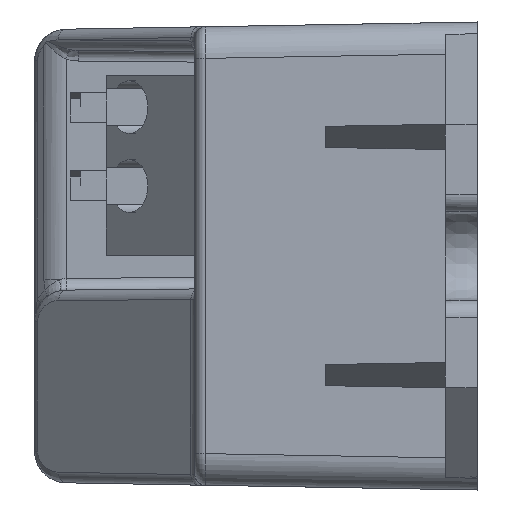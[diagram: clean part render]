
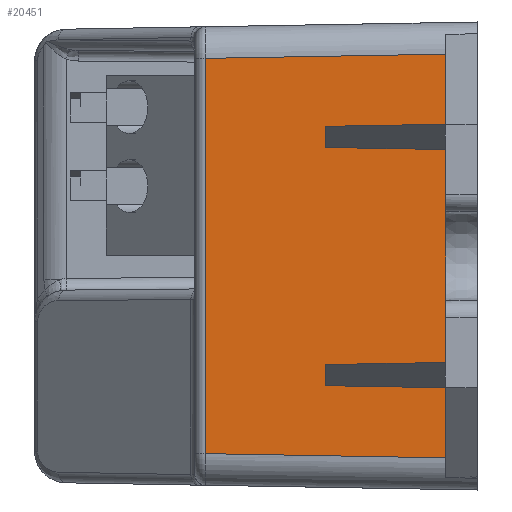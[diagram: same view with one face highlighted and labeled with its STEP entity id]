
A CAD part, left-side view. The second image highlights one B-rep face of the part: STEP entity #20451.
In plain terms, the highlighted planar face has unit normal (-1, 0.018, 0).
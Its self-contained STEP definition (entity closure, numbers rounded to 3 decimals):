
#4564=CARTESIAN_POINT('',(130.84,-26.403,
-26.689));
#6847=DIRECTION('',(0.017,1.,-0.017));
#6848=VECTOR('',#6847,6.711);
#6849=CARTESIAN_POINT('',(130.722,-33.112,
-7.822));
#6850=LINE('',#6849,#6848);
#6851=DIRECTION('',(0.017,1.,-0.017));
#6852=VECTOR('',#6851,4.701);
#6853=CARTESIAN_POINT('',(130.64,-37.812,
-7.74));
#6854=LINE('',#6853,#6852);
#6855=DIRECTION('',(0.,0.,1.));
#6856=VECTOR('',#6855,2.007);
#6857=CARTESIAN_POINT('',(130.64,-37.812,
-9.747));
#6858=LINE('',#6857,#6856);
#6859=DIRECTION('',(0.,0.,1.));
#6860=VECTOR('',#6859,15.135);
#6861=CARTESIAN_POINT('',(130.614,-39.312,
-24.882));
#6862=LINE('',#6861,#6860);
#6863=DIRECTION('',(0.,0.,1.));
#6864=VECTOR('',#6863,2.007);
#6865=CARTESIAN_POINT('',(130.64,-37.812,
-26.888));
#6866=LINE('',#6865,#6864);
#6867=DIRECTION('',(-0.017,-1.,-0.017));
#6868=VECTOR('',#6867,4.701);
#6869=CARTESIAN_POINT('',(130.722,-33.112,
-26.806));
#6870=LINE('',#6869,#6868);
#6871=DIRECTION('',(-0.017,-1.,-0.017));
#6872=VECTOR('',#6871,6.711);
#6873=CARTESIAN_POINT('',(130.84,-26.403,
-26.689));
#6874=LINE('',#6873,#6872);
#6875=DIRECTION('',(-0.017,-1.,0.017));
#6876=VECTOR('',#6875,5.702);
#6877=CARTESIAN_POINT('',(130.74,-32.112,
-11.164));
#6878=LINE('',#6877,#6876);
#6879=DIRECTION('',(0.,0.,1.));
#6880=VECTOR('',#6879,1.001);
#6881=CARTESIAN_POINT('',(130.74,-32.112,
-12.165));
#6882=LINE('',#6881,#6880);
#6883=DIRECTION('',(0.017,1.,0.017));
#6884=VECTOR('',#6883,5.702);
#6885=CARTESIAN_POINT('',(130.64,-37.812,
-12.264));
#6886=LINE('',#6885,#6884);
#6887=DIRECTION('',(0.,0.,-1.));
#6888=VECTOR('',#6887,1.2);
#6889=CARTESIAN_POINT('',(130.64,-37.812,
-11.064));
#6890=LINE('',#6889,#6888);
#6891=DIRECTION('',(-0.017,-1.,0.017));
#6892=VECTOR('',#6891,5.702);
#6893=CARTESIAN_POINT('',(130.74,-32.112,
-22.464));
#6894=LINE('',#6893,#6892);
#6895=DIRECTION('',(0.,0.,1.));
#6896=VECTOR('',#6895,1.001);
#6897=CARTESIAN_POINT('',(130.74,-32.112,
-23.465));
#6898=LINE('',#6897,#6896);
#6899=DIRECTION('',(0.017,1.,0.017));
#6900=VECTOR('',#6899,5.702);
#6901=CARTESIAN_POINT('',(130.64,-37.812,
-23.564));
#6902=LINE('',#6901,#6900);
#6903=DIRECTION('',(0.,0.,-1.));
#6904=VECTOR('',#6903,1.2);
#6905=CARTESIAN_POINT('',(130.64,-37.812,
-22.364));
#6906=LINE('',#6905,#6904);
#6931=DIRECTION('',(0.017,1.,0.));
#6932=VECTOR('',#6931,1.5);
#6933=CARTESIAN_POINT('',(130.614,-39.312,
-24.882));
#6934=LINE('',#6933,#6932);
#6939=DIRECTION('',(-0.017,-1.,0.));
#6940=VECTOR('',#6939,1.5);
#6941=CARTESIAN_POINT('',(130.64,-37.812,
-9.747));
#6942=LINE('',#6941,#6940);
#7003=DIRECTION('',(0.,0.,1.));
#7004=VECTOR('',#7003,18.75);
#7005=CARTESIAN_POINT('',(130.84,-26.403,
-26.689));
#7006=LINE('',#7005,#7004);
#9181=VERTEX_POINT('',#4564);
#9182=CARTESIAN_POINT('',(130.84,-26.403,-7.94));
#9183=VERTEX_POINT('',#9182);
#9187=CARTESIAN_POINT('',(130.722,-33.112,
-7.822));
#9188=VERTEX_POINT('',#9187);
#9189=CARTESIAN_POINT('',(130.64,-37.812,
-7.74));
#9190=VERTEX_POINT('',#9189);
#9281=CARTESIAN_POINT('',(130.64,-37.812,
-24.882));
#9282=VERTEX_POINT('',#9281);
#9283=CARTESIAN_POINT('',(130.64,-37.812,
-26.888));
#9284=VERTEX_POINT('',#9283);
#9285=CARTESIAN_POINT('',(130.722,-33.112,
-26.806));
#9286=VERTEX_POINT('',#9285);
#9287=CARTESIAN_POINT('',(130.614,-39.312,
-24.882));
#9288=VERTEX_POINT('',#9287);
#9289=CARTESIAN_POINT('',(130.614,-39.312,
-9.747));
#9290=VERTEX_POINT('',#9289);
#9291=CARTESIAN_POINT('',(130.64,-37.812,
-9.747));
#9292=VERTEX_POINT('',#9291);
#9293=CARTESIAN_POINT('',(130.74,-32.112,
-11.164));
#9294=CARTESIAN_POINT('',(130.64,-37.812,
-11.064));
#9295=VERTEX_POINT('',#9293);
#9296=VERTEX_POINT('',#9294);
#9297=CARTESIAN_POINT('',(130.64,-37.812,
-12.264));
#9298=VERTEX_POINT('',#9297);
#9299=CARTESIAN_POINT('',(130.74,-32.112,
-12.165));
#9300=VERTEX_POINT('',#9299);
#9301=CARTESIAN_POINT('',(130.74,-32.112,
-22.464));
#9302=CARTESIAN_POINT('',(130.64,-37.812,
-22.364));
#9303=VERTEX_POINT('',#9301);
#9304=VERTEX_POINT('',#9302);
#9305=CARTESIAN_POINT('',(130.64,-37.812,
-23.564));
#9306=VERTEX_POINT('',#9305);
#9307=CARTESIAN_POINT('',(130.74,-32.112,
-23.465));
#9308=VERTEX_POINT('',#9307);
#20410=CARTESIAN_POINT('',(130.614,-39.312,
-6.214));
#20411=DIRECTION('',(-1.,0.017,0.));
#20412=DIRECTION('',(0.017,1.,0.));
#20413=AXIS2_PLACEMENT_3D('',#20410,#20411,#20412);
#20414=PLANE('',#20413);
#20415=ORIENTED_EDGE('',*,*,#20349,.F.);
#20416=ORIENTED_EDGE('',*,*,#20347,.F.);
#20418=ORIENTED_EDGE('',*,*,#20417,.F.);
#20420=ORIENTED_EDGE('',*,*,#20419,.T.);
#20422=ORIENTED_EDGE('',*,*,#20421,.F.);
#20424=ORIENTED_EDGE('',*,*,#20423,.T.);
#20425=ORIENTED_EDGE('',*,*,#16933,.F.);
#20426=ORIENTED_EDGE('',*,*,#16953,.F.);
#20427=ORIENTED_EDGE('',*,*,#16951,.F.);
#20429=ORIENTED_EDGE('',*,*,#20428,.T.);
#20430=EDGE_LOOP('',(#20415,#20416,#20418,#20420,#20422,#20424,#20425,#20426,
#20427,#20429));
#20431=FACE_OUTER_BOUND('',#20430,.F.);
#20433=ORIENTED_EDGE('',*,*,#20432,.F.);
#20435=ORIENTED_EDGE('',*,*,#20434,.F.);
#20436=ORIENTED_EDGE('',*,*,#20399,.F.);
#20438=ORIENTED_EDGE('',*,*,#20437,.F.);
#20439=EDGE_LOOP('',(#20433,#20435,#20436,#20438));
#20440=FACE_BOUND('',#20439,.F.);
#20442=ORIENTED_EDGE('',*,*,#20441,.F.);
#20444=ORIENTED_EDGE('',*,*,#20443,.F.);
#20446=ORIENTED_EDGE('',*,*,#20445,.F.);
#20448=ORIENTED_EDGE('',*,*,#20447,.F.);
#20449=EDGE_LOOP('',(#20442,#20444,#20446,#20448));
#20450=FACE_BOUND('',#20449,.F.);
#20451=ADVANCED_FACE('',(#20431,#20440,#20450),#20414,.T.);
#16933=EDGE_CURVE('',#9284,#9282,#6866,.T.);
#16951=EDGE_CURVE('',#9181,#9286,#6874,.T.);
#16953=EDGE_CURVE('',#9286,#9284,#6870,.T.);
#20347=EDGE_CURVE('',#9190,#9188,#6854,.T.);
#20349=EDGE_CURVE('',#9188,#9183,#6850,.T.);
#20399=EDGE_CURVE('',#9298,#9300,#6886,.T.);
#20417=EDGE_CURVE('',#9292,#9190,#6858,.T.);
#20419=EDGE_CURVE('',#9292,#9290,#6942,.T.);
#20421=EDGE_CURVE('',#9288,#9290,#6862,.T.);
#20423=EDGE_CURVE('',#9288,#9282,#6934,.T.);
#20428=EDGE_CURVE('',#9181,#9183,#7006,.T.);
#20432=EDGE_CURVE('',#9295,#9296,#6878,.T.);
#20434=EDGE_CURVE('',#9300,#9295,#6882,.T.);
#20437=EDGE_CURVE('',#9296,#9298,#6890,.T.);
#20441=EDGE_CURVE('',#9303,#9304,#6894,.T.);
#20443=EDGE_CURVE('',#9308,#9303,#6898,.T.);
#20445=EDGE_CURVE('',#9306,#9308,#6902,.T.);
#20447=EDGE_CURVE('',#9304,#9306,#6906,.T.);
